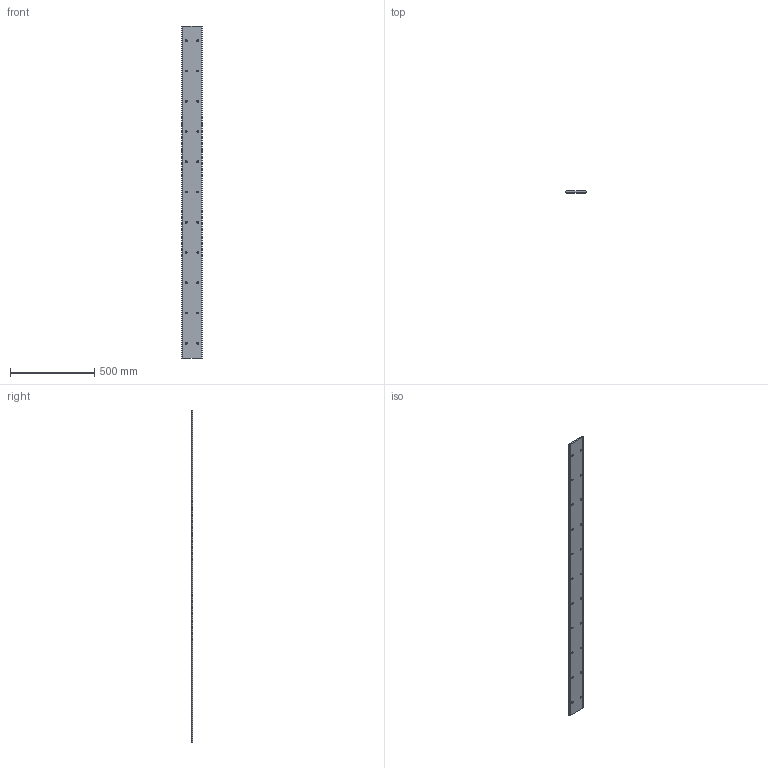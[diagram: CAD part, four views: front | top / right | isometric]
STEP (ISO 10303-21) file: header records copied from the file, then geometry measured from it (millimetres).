
FILE_DESCRIPTION(('STEP AP203'),'1');
FILE_NAME('slide_l120l1976p1.stp','2022-07-01T06:24:59',('TraceParts'),('TraceParts S.A.'),'Spatial InterOp 3D',' ',' ');
FILE_SCHEMA(('CONFIG_CONTROL_DESIGN'));
Length unit declared in the file: millimetre
Products named in the file (1): 1
Bounding box: 119.68 x 9.12 x 1976 mm (x, y, z)
Volume: 2037862.6 mm3; surface area: 490755 mm2
Topology: 1 solids, 1 shells, 56 faces, 162 edges, 108 vertices
Faces by surface type: cylinder 48, plane 8
Entity records: 2034 total; most frequent: DIRECTION 372, CARTESIAN_POINT 327, ORIENTED_EDGE 324, EDGE_CURVE 162, AXIS2_PLACEMENT_3D 153, VERTEX_POINT 108, EDGE_LOOP 100, CIRCLE 96
